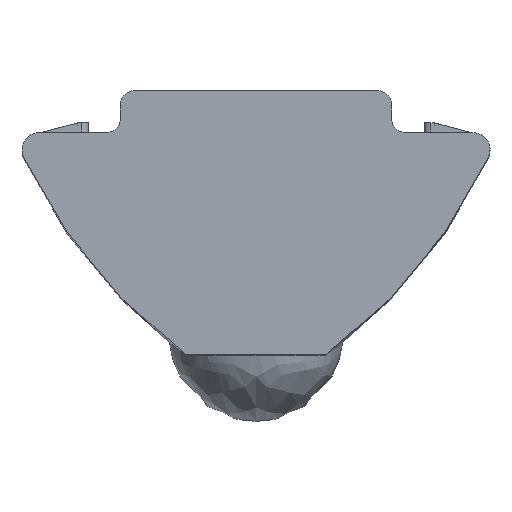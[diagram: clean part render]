
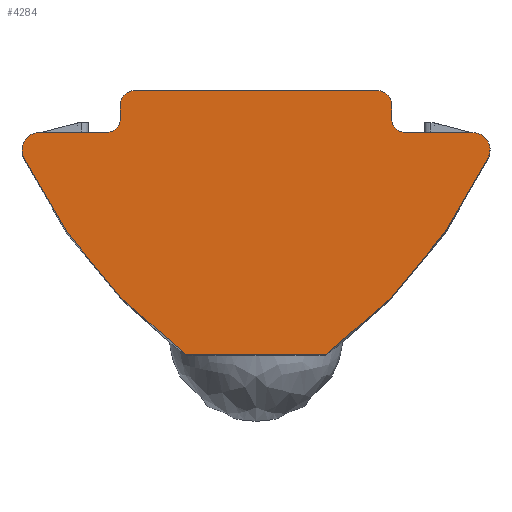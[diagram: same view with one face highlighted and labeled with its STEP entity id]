
A CAD part, top view. The second image highlights one B-rep face of the part: STEP entity #4284.
In plain terms, the highlighted planar face has unit normal (0, 0, 1).
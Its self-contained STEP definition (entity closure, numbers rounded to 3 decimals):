
#39 = ORIENTED_EDGE ( 'NONE', *, *, #5608, .T. ) ;
#110 = AXIS2_PLACEMENT_3D ( 'NONE', #5994, #2733, #3772 ) ;
#232 = VECTOR ( 'NONE', #3271, 1000. ) ;
#259 = EDGE_LOOP ( 'NONE', ( #2489, #1874, #1403, #4735, #39, #5206, #1620, #1722, #4538, #5819, #1655, #3948, #3140, #1755, #3351 ) ) ;
#319 = VECTOR ( 'NONE', #3048, 1000. ) ;
#432 = CARTESIAN_POINT ( 'NONE',  ( 3.5, 0.4, 22. ) ) ;
#684 = DIRECTION ( 'NONE',  ( -1., 0., 0. ) ) ;
#690 = CARTESIAN_POINT ( 'NONE',  ( 3.9, 0., 22. ) ) ;
#728 = VERTEX_POINT ( 'NONE', #1152 ) ;
#747 = CARTESIAN_POINT ( 'NONE',  ( 6.233, -0.8, 22. ) ) ;
#815 = EDGE_CURVE ( 'NONE', #6048, #4113, #2197, .T. ) ;
#900 = VERTEX_POINT ( 'NONE', #432 ) ;
#1080 = CARTESIAN_POINT ( 'NONE',  ( -6.686, -1.513, 22. ) ) ;
#1152 = CARTESIAN_POINT ( 'NONE',  ( 3.9, -0.4, 22. ) ) ;
#1231 = VECTOR ( 'NONE', #5250, 1000. ) ;
#1244 = CARTESIAN_POINT ( 'NONE',  ( -3.9, 0., 22. ) ) ;
#1268 = DIRECTION ( 'NONE',  ( 1., 0., 0. ) ) ;
#1304 = DIRECTION ( 'NONE',  ( 1., 0., 0. ) ) ;
#1385 = FACE_OUTER_BOUND ( 'NONE', #259, .T. ) ;
#1395 = CARTESIAN_POINT ( 'NONE',  ( 6.233, -1.3, 22. ) ) ;
#1403 = ORIENTED_EDGE ( 'NONE', *, *, #4146, .F. ) ;
#1434 = CARTESIAN_POINT ( 'NONE',  ( 0., -0.8, 22. ) ) ;
#1518 = VECTOR ( 'NONE', #1268, 1000. ) ;
#1620 = ORIENTED_EDGE ( 'NONE', *, *, #815, .F. ) ;
#1652 = CARTESIAN_POINT ( 'NONE',  ( -3.9, -0.4, 22. ) ) ;
#1655 = ORIENTED_EDGE ( 'NONE', *, *, #2317, .F. ) ;
#1668 = DIRECTION ( 'NONE',  ( -1., 0., 0. ) ) ;
#1688 = CARTESIAN_POINT ( 'NONE',  ( 2., -7.2, 22. ) ) ;
#1709 = DIRECTION ( 'NONE',  ( 0., 0., 1. ) ) ;
#1722 = ORIENTED_EDGE ( 'NONE', *, *, #1763, .F. ) ;
#1755 = ORIENTED_EDGE ( 'NONE', *, *, #5887, .T. ) ;
#1762 = LINE ( 'NONE', #2316, #1518 ) ;
#1763 = EDGE_CURVE ( 'NONE', #4443, #6048, #2496, .T. ) ;
#1790 = PLANE ( 'NONE',  #3889 ) ;
#1830 = EDGE_CURVE ( 'NONE', #4530, #900, #3971, .T. ) ;
#1846 = DIRECTION ( 'NONE',  ( 0., 0., -1. ) ) ;
#1861 = DIRECTION ( 'NONE',  ( 0., 0., 1. ) ) ;
#1874 = ORIENTED_EDGE ( 'NONE', *, *, #5597, .T. ) ;
#1976 = VERTEX_POINT ( 'NONE', #690 ) ;
#2088 = VERTEX_POINT ( 'NONE', #1652 ) ;
#2133 = AXIS2_PLACEMENT_3D ( 'NONE', #1395, #3282, #5599 ) ;
#2140 = DIRECTION ( 'NONE',  ( 0., 0., -1. ) ) ;
#2146 = CARTESIAN_POINT ( 'NONE',  ( -3.5, 0., 22. ) ) ;
#2197 = CIRCLE ( 'NONE', #110, 0.5 ) ;
#2220 = CARTESIAN_POINT ( 'NONE',  ( -3.5, 0.4, 22. ) ) ;
#2222 = VECTOR ( 'NONE', #4027, 1000. ) ;
#2316 = CARTESIAN_POINT ( 'NONE',  ( 0., -7.2, 22. ) ) ;
#2317 = EDGE_CURVE ( 'NONE', #5633, #3146, #2423, .T. ) ;
#2319 = CIRCLE ( 'NONE', #3107, 0.4 ) ;
#2346 = CARTESIAN_POINT ( 'NONE',  ( 6.686, -1.513, 22. ) ) ;
#2416 = CIRCLE ( 'NONE', #4485, 0.5 ) ;
#2423 = CIRCLE ( 'NONE', #2133, 0.5 ) ;
#2456 = CIRCLE ( 'NONE', #5316, 0.4 ) ;
#2489 = ORIENTED_EDGE ( 'NONE', *, *, #1830, .F. ) ;
#2496 = CIRCLE ( 'NONE', #3084, 15. ) ;
#2642 = CARTESIAN_POINT ( 'NONE',  ( -6.233, -0.8, 22. ) ) ;
#2653 = CARTESIAN_POINT ( 'NONE',  ( -4.3, -0.8, 22. ) ) ;
#2733 = DIRECTION ( 'NONE',  ( 0., 0., -1. ) ) ;
#2812 = CARTESIAN_POINT ( 'NONE',  ( 0., 0., 22. ) ) ;
#2833 = CARTESIAN_POINT ( 'NONE',  ( 6.879, 4.89, 22. ) ) ;
#2906 = CIRCLE ( 'NONE', #4677, 0.4 ) ;
#3031 = CARTESIAN_POINT ( 'NONE',  ( -6.233, -1.3, 22. ) ) ;
#3033 = DIRECTION ( 'NONE',  ( 0., 0., -1. ) ) ;
#3048 = DIRECTION ( 'NONE',  ( 1., 0., 0. ) ) ;
#3084 = AXIS2_PLACEMENT_3D ( 'NONE', #2833, #1846, #3233 ) ;
#3098 = DIRECTION ( 'NONE',  ( 1., 0., 0. ) ) ;
#3107 = AXIS2_PLACEMENT_3D ( 'NONE', #5531, #1861, #1304 ) ;
#3140 = ORIENTED_EDGE ( 'NONE', *, *, #3877, .T. ) ;
#3146 = VERTEX_POINT ( 'NONE', #2346 ) ;
#3233 = DIRECTION ( 'NONE',  ( -1., 0., 0. ) ) ;
#3271 = DIRECTION ( 'NONE',  ( 0., 1., 0. ) ) ;
#3282 = DIRECTION ( 'NONE',  ( 0., 0., -1. ) ) ;
#3322 = DIRECTION ( 'NONE',  ( -1., 0., 0. ) ) ;
#3351 = ORIENTED_EDGE ( 'NONE', *, *, #5829, .T. ) ;
#3535 = VERTEX_POINT ( 'NONE', #1688 ) ;
#3549 = DIRECTION ( 'NONE',  ( 0., 0., -1. ) ) ;
#3557 = CARTESIAN_POINT ( 'NONE',  ( -6.879, 4.89, 22. ) ) ;
#3602 = VERTEX_POINT ( 'NONE', #4218 ) ;
#3680 = EDGE_CURVE ( 'NONE', #5633, #3602, #5664, .T. ) ;
#3772 = DIRECTION ( 'NONE',  ( -1., 0., 0. ) ) ;
#3877 = EDGE_CURVE ( 'NONE', #3602, #728, #5214, .T. ) ;
#3889 = AXIS2_PLACEMENT_3D ( 'NONE', #2812, #5553, #4631 ) ;
#3927 = CARTESIAN_POINT ( 'NONE',  ( 4.3, -0.4, 22. ) ) ;
#3943 = EDGE_CURVE ( 'NONE', #2088, #4559, #2456, .T. ) ;
#3948 = ORIENTED_EDGE ( 'NONE', *, *, #3680, .T. ) ;
#3971 = LINE ( 'NONE', #5850, #319 ) ;
#3978 = CARTESIAN_POINT ( 'NONE',  ( -2., -7.2, 22. ) ) ;
#3986 = DIRECTION ( 'NONE',  ( -1., 0., 0. ) ) ;
#4027 = DIRECTION ( 'NONE',  ( -1., 0., 0. ) ) ;
#4087 = LINE ( 'NONE', #5474, #2222 ) ;
#4113 = VERTEX_POINT ( 'NONE', #5035 ) ;
#4146 = EDGE_CURVE ( 'NONE', #2088, #4864, #6015, .T. ) ;
#4204 = EDGE_CURVE ( 'NONE', #4443, #3535, #1762, .T. ) ;
#4218 = CARTESIAN_POINT ( 'NONE',  ( 4.3, -0.8, 22. ) ) ;
#4284 = ADVANCED_FACE ( 'NONE', ( #1385 ), #1790, .T. ) ;
#4331 = VECTOR ( 'NONE', #3322, 1000. ) ;
#4382 = AXIS2_PLACEMENT_3D ( 'NONE', #3557, #4914, #684 ) ;
#4443 = VERTEX_POINT ( 'NONE', #3978 ) ;
#4485 = AXIS2_PLACEMENT_3D ( 'NONE', #3031, #3549, #5919 ) ;
#4530 = VERTEX_POINT ( 'NONE', #2220 ) ;
#4538 = ORIENTED_EDGE ( 'NONE', *, *, #4204, .T. ) ;
#4559 = VERTEX_POINT ( 'NONE', #2653 ) ;
#4616 = AXIS2_PLACEMENT_3D ( 'NONE', #3927, #2140, #1668 ) ;
#4631 = DIRECTION ( 'NONE',  ( 1., 0., 0. ) ) ;
#4677 = AXIS2_PLACEMENT_3D ( 'NONE', #2146, #1709, #3098 ) ;
#4735 = ORIENTED_EDGE ( 'NONE', *, *, #3943, .T. ) ;
#4843 = EDGE_CURVE ( 'NONE', #3535, #3146, #5758, .T. ) ;
#4864 = VERTEX_POINT ( 'NONE', #1244 ) ;
#4914 = DIRECTION ( 'NONE',  ( 0., 0., 1. ) ) ;
#4942 = CARTESIAN_POINT ( 'NONE',  ( -4.3, -0.4, 22. ) ) ;
#5035 = CARTESIAN_POINT ( 'NONE',  ( -6.733, -1.3, 22. ) ) ;
#5105 = EDGE_CURVE ( 'NONE', #4113, #5659, #2416, .T. ) ;
#5206 = ORIENTED_EDGE ( 'NONE', *, *, #5105, .F. ) ;
#5214 = CIRCLE ( 'NONE', #4616, 0.4 ) ;
#5250 = DIRECTION ( 'NONE',  ( 0., 1., 0. ) ) ;
#5282 = LINE ( 'NONE', #5739, #1231 ) ;
#5316 = AXIS2_PLACEMENT_3D ( 'NONE', #4942, #3033, #3986 ) ;
#5474 = CARTESIAN_POINT ( 'NONE',  ( 0., -0.8, 22. ) ) ;
#5531 = CARTESIAN_POINT ( 'NONE',  ( 3.5, 0., 22. ) ) ;
#5553 = DIRECTION ( 'NONE',  ( 0., 0., 1. ) ) ;
#5587 = CARTESIAN_POINT ( 'NONE',  ( -3.9, -0.4, 22. ) ) ;
#5597 = EDGE_CURVE ( 'NONE', #4530, #4864, #2906, .T. ) ;
#5599 = DIRECTION ( 'NONE',  ( -1., 0., 0. ) ) ;
#5608 = EDGE_CURVE ( 'NONE', #4559, #5659, #4087, .T. ) ;
#5633 = VERTEX_POINT ( 'NONE', #747 ) ;
#5659 = VERTEX_POINT ( 'NONE', #2642 ) ;
#5664 = LINE ( 'NONE', #1434, #4331 ) ;
#5739 = CARTESIAN_POINT ( 'NONE',  ( 3.9, -0.4, 22. ) ) ;
#5758 = CIRCLE ( 'NONE', #4382, 15. ) ;
#5819 = ORIENTED_EDGE ( 'NONE', *, *, #4843, .T. ) ;
#5829 = EDGE_CURVE ( 'NONE', #1976, #900, #2319, .T. ) ;
#5850 = CARTESIAN_POINT ( 'NONE',  ( -3.9, 0.4, 22. ) ) ;
#5887 = EDGE_CURVE ( 'NONE', #728, #1976, #5282, .T. ) ;
#5919 = DIRECTION ( 'NONE',  ( -1., 0., 0. ) ) ;
#5994 = CARTESIAN_POINT ( 'NONE',  ( -6.233, -1.3, 22. ) ) ;
#6015 = LINE ( 'NONE', #5587, #232 ) ;
#6048 = VERTEX_POINT ( 'NONE', #1080 ) ;
